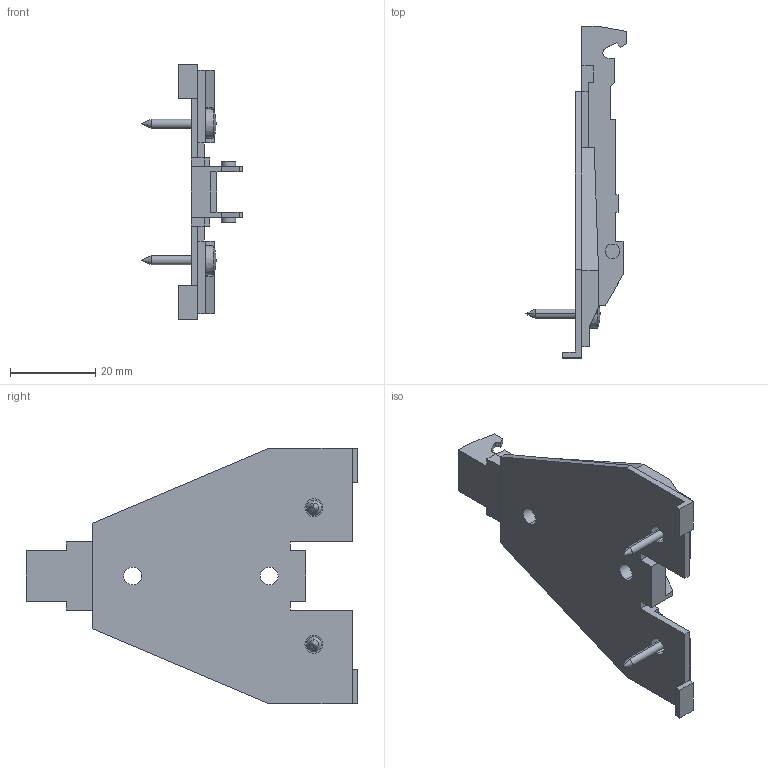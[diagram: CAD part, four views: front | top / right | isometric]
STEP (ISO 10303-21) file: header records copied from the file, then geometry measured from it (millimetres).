
FILE_DESCRIPTION (( 'STEP AP214' ), '1' );
FILE_NAME ('1D Deltamontageplatte Spax_vormontiert_H1,5.step', '2010-11-18T09:42:11', ( 'grass' ), ( '' ), 'SwSTEP 2.0', 'SolidWorks 2010', '' );
FILE_SCHEMA (( 'AUTOMOTIVE_DESIGN' ));
Length unit declared in the file: millimetre
Products named in the file (1): 1D Deltamontageplatte Spax_vormontiert_H1,5
Bounding box: 23.7 x 77.75 x 60 mm (x, y, z)
Volume: 12343.2 mm3; surface area: 9243.3 mm2
Topology: 1 solids, 1 shells, 148 faces, 408 edges, 266 vertices
Faces by surface type: plane 110, cylinder 22, cone 12, sphere 4
Entity records: 4670 total; most frequent: CARTESIAN_POINT 825, ORIENTED_EDGE 808, DIRECTION 760, EDGE_CURVE 404, LINE 342, VECTOR 342, VERTEX_POINT 266, AXIS2_PLACEMENT_3D 209
